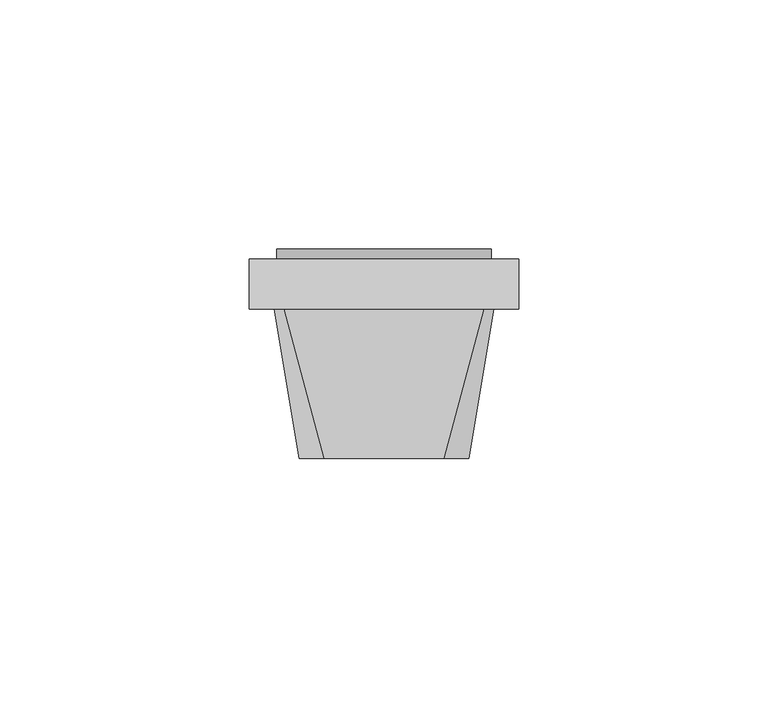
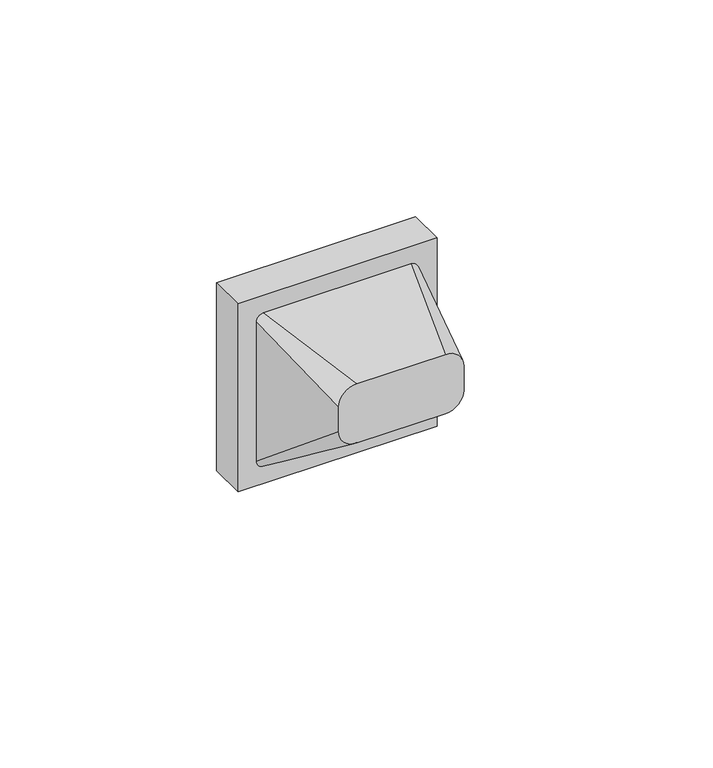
"""IFC4 building model written with IfcOpenShell, lengths in millimetres: proxy geometry, IEK_Brite_Механизм розетки 230В : 230 В PE+шт. USB A+A_РЮш10-1-БрА."""

from ifc_helpers import new_model, si_unit, point, frame, frame_2d, origin, origin_2d, place, context, project, spatial, polyline, circle_curve, ellipse_curve, trimmed, segment, composite_curve, outline, extrude, source, transform, mapped, element, save
from ifc_brep_helpers import plane_surface, cylinder_surface, revolved_surface, spline_surface, advanced_brep


def electrical_fixtures_fe53b4b8(model_context):
    return source(origin(), model_context, "Body", "SolidModel", [
        extrude(outline(polyline([(0.0, -0.9632194), (0.0, 0.0), (6.432744, 0.0), (6.432744, -0.9632194), (0.0, -0.9632194)])), frame((-21.2404576, 8.332744, 14.5465446), z_axis=(0.7071067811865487, 0.0, 0.7071067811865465), x_axis=(0.0, -1.0, 0.0)), (0.0, 0.0, 1.0), 1.1531456),
        extrude(outline(polyline([(0.0, -0.9632194), (0.0, 0.0), (6.432744, 0.0), (6.432744, -0.9632194), (0.0, -0.9632194)])), frame((-19.4528563, 8.332744, 16.3341459), z_axis=(0.7071067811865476, 0.0, 0.7071067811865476), x_axis=(0.0, -1.0, 0.0)), (0.0, 0.0, 1.0), 1.1531456),
        extrude(outline(polyline([(0.0, -0.9632194), (0.0, 0.0), (6.432744, 0.0), (6.432744, -0.9632194), (0.0, -0.9632194)])), frame((-17.7049237, 8.332744, 18.0820785), z_axis=(0.7071067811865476, 0.0, 0.7071067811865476), x_axis=(0.0, -1.0, 0.0)), (0.0, 0.0, 1.0), 1.1531456),
        extrude(outline(polyline([(0.0, -0.9632194), (0.0, 0.0), (6.432744, 0.0), (6.432744, -0.9632194), (0.0, -0.9632194)])), frame((-15.9173224, 8.332744, 19.8696798), z_axis=(0.7071067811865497, 0.0, 0.7071067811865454), x_axis=(0.0, -1.0, 0.0)), (0.0, 0.0, 1.0), 1.1531456),
        extrude(outline(polyline([(0.0, -1.1632949), (0.0, 0.0), (6.7835378, 0.0), (6.7835378, -1.1632949), (0.0, -1.1632949)])), frame((-22.8653766, 1.865818, 14.0628527), z_axis=(0.7071067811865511, 0.0, 0.7071067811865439), x_axis=(0.0, 1.0, 0.0)), (0.0, 0.0, 1.0), 11.3487944),
        extrude(outline(polyline([(0.0, -1.1531456), (0.0, 0.0), (6.432744, 0.0), (6.432744, -1.1531456), (0.0, -1.1531456)])), frame((21.2404576, 8.332744, 14.5465446), z_axis=(0.7071067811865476, 0.0, 0.7071067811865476), x_axis=(0.0, -1.0, 0.0)), (0.0, 0.0, 1.0), 0.9632194),
        extrude(outline(polyline([(0.0, -1.1531455), (0.0, 0.0), (6.432744, 0.0), (6.432744, -1.1531455), (0.0, -1.1531455)])), frame((19.4528563, 8.332744, 16.3341459), z_axis=(0.7071067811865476, 0.0, 0.7071067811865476), x_axis=(0.0, -1.0, 0.0)), (0.0, 0.0, 1.0), 0.9632194),
        extrude(outline(polyline([(0.0, -1.1531456), (0.0, 0.0), (6.432744, 0.0), (6.432744, -1.1531456), (0.0, -1.1531456)])), frame((17.7049237, 8.332744, 18.0820785), z_axis=(0.7071067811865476, 0.0, 0.7071067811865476), x_axis=(0.0, -1.0, 0.0)), (0.0, 0.0, 1.0), 0.9632194),
        extrude(outline(polyline([(0.0, -1.1531455), (0.0, 0.0), (6.432744, 0.0), (6.432744, -1.1531455), (0.0, -1.1531455)])), frame((15.9173224, 8.332744, 19.8696798), z_axis=(0.7071067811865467, 0.0, 0.7071067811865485), x_axis=(0.0, -1.0, 0.0)), (0.0, 0.0, 1.0), 0.9632194),
        extrude(outline(polyline([(0.0, -11.3487944), (0.0, 0.0), (6.7835378, 0.0), (6.7835378, -11.3487944), (0.0, -11.3487944)])), frame((14.0179934, 1.865818, 21.2650885), z_axis=(0.707106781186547, 0.0, 0.7071067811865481), x_axis=(0.0, 1.0, 0.0)), (0.0, 0.0, 1.0), 1.1632949),
        advanced_brep(
        [(-12.0, -30.0, 17.0), (-17.0, -30.0, 12.0), (-17.0, -30.0, 5.0), (-12.0, -30.0, 0.0), (12.0, -30.0, 0.0), (17.0, -30.0, 5.0), (17.0, -30.0, 12.0), (12.0, -30.0, 17.0), (-20.0, 0.0, 22.0), (20.0, 0.0, 22.0), (22.0, 0.0, 20.0), (22.0, 0.0, -20.0), (20.0, 0.0, -22.0), (-20.0, 0.0, -22.0), (-22.0, 0.0, -20.0), (-22.0, 0.0, 20.0), (-11.8753617, 0.0, 0.0), (-6.3904783, 0.0, 0.0), (-3.0105286, 0.0, 0.0), (3.0105286, 0.0, 0.0), (6.3904783, 0.0, 0.0), (11.8753617, 0.0, 0.0), (-1.7917908, 0.0, 19.3280847), (-1.7917908, 0.0, 16.8280847), (0.0, 0.0, 16.8280847), (1.7917908, 0.0, 16.8280847), (1.7917908, 0.0, 19.3280847), (0.0, 0.0, 19.3280847), (-1.7917908, 0.0, -19.3280847), (0.0, 0.0, -19.3280847), (1.7917908, 0.0, -19.3280847), (1.7917908, 0.0, -16.8280847), (0.0, 0.0, -16.8280847), (-1.7917908, 0.0, -16.8280847), (0.0, -3.6435209, -19.3280847), (-1.7917908, -3.6435209, -19.3280847), (-1.7917908, -7.0526118, -16.8280847), (0.0, -7.0526118, -16.8280847), (1.7917908, -7.0526118, -16.8280847), (1.7917908, -3.6435209, -19.3280847), (-11.8753617, -13.4962918, 0.0), (-6.3904783, -13.4962918, 0.0), (-3.0105286, -13.4962918, 0.0), (3.0105286, -13.4962918, 0.0), (6.3904783, -13.4962918, 0.0), (11.8753617, -13.4962918, 0.0), (-1.7917908, -13.4962918, 19.3280847), (0.0, -13.4962918, 19.3280847), (1.7917908, -13.4962918, 19.3280847), (1.7917908, -13.4962918, 16.8280847), (0.0, -13.4962918, 16.8280847), (-1.7917908, -13.4962918, 16.8280847)],
        [
            (0, 1, circle_curve(frame((-12.0, -30.0, 12.0), z_axis=(0.0, -1.0, 0.0), x_axis=(1.0, 0.0, 0.0)), 5.0)),
            (1, 2),
            (2, 3, circle_curve(frame((-12.0, -30.0, 5.0), z_axis=(0.0, -1.0, 0.0), x_axis=(1.0, 0.0, 0.0)), 5.0)),
            (3, 4),
            (4, 5, circle_curve(frame((12.0, -30.0, 5.0), z_axis=(0.0, -1.0, 0.0), x_axis=(1.0, 0.0, 0.0)), 5.0)),
            (5, 6),
            (6, 7, circle_curve(frame((12.0, -30.0, 12.0), z_axis=(0.0, -1.0, 0.0), x_axis=(1.0, 0.0, 0.0)), 5.0)),
            (7, 0),
            (8, 9),
            (9, 10, circle_curve(frame((20.0, 0.0, 20.0), z_axis=(0.0, 1.0, 0.0), x_axis=(1.0, 0.0, 0.0)), 2.0)),
            (10, 11),
            (11, 12, circle_curve(frame((20.0, 0.0, -20.0), z_axis=(0.0, 1.0, 0.0), x_axis=(1.0, 0.0, 0.0)), 2.0)),
            (12, 13),
            (13, 14, circle_curve(frame((-20.0, 0.0, -20.0), z_axis=(0.0, 1.0, 0.0), x_axis=(1.0, 0.0, 0.0)), 2.0)),
            (14, 15),
            (15, 8, circle_curve(frame((-20.0, 0.0, 20.0), z_axis=(0.0, 1.0, 0.0), x_axis=(1.0, 0.0, 0.0)), 2.0)),
            (16, 17, circle_curve(frame((-9.13292, 0.0, 0.0), z_axis=(0.0, -1.0, 0.0), x_axis=(1.0, 0.0, 0.0)), 2.7424417)),
            (17, 16, circle_curve(frame((-9.13292, 0.0, 0.0), z_axis=(0.0, -1.0, 0.0), x_axis=(1.0, 0.0, 0.0)), 2.7424417)),
            (18, 19, circle_curve(frame((0.0, 0.0, 0.0), z_axis=(0.0, -1.0, 0.0), x_axis=(1.0, 0.0, 0.0)), 3.0105286)),
            (19, 18, circle_curve(frame((0.0, 0.0, 0.0), z_axis=(0.0, -1.0, 0.0), x_axis=(1.0, 0.0, 0.0)), 3.0105286)),
            (20, 21, circle_curve(frame((9.13292, 0.0, 0.0), z_axis=(0.0, -1.0, 0.0), x_axis=(1.0, 0.0, 0.0)), 2.7424417)),
            (21, 20, circle_curve(frame((9.13292, 0.0, 0.0), z_axis=(0.0, -1.0, 0.0), x_axis=(1.0, 0.0, 0.0)), 2.7424417)),
            (22, 23),
            (23, 24),
            (24, 25),
            (25, 26),
            (26, 27),
            (27, 22),
            (28, 29),
            (29, 30),
            (30, 31),
            (31, 32),
            (32, 33),
            (33, 28),
            (7, 9),
            (8, 0),
            (6, 10),
            (5, 11),
            (4, 12),
            (3, 13),
            (34, 35),
            (35, 36),
            (36, 37),
            (37, 38),
            (38, 39),
            (39, 34),
            (2, 14),
            (1, 15),
            (40, 41, circle_curve(frame((-9.13292, -13.4962918, 0.0), z_axis=(0.0, 1.0, 0.0), x_axis=(1.0, 0.0, 0.0)), 2.7424417)),
            (41, 40, circle_curve(frame((-9.13292, -13.4962918, 0.0), z_axis=(0.0, 1.0, 0.0), x_axis=(1.0, 0.0, 0.0)), 2.7424417)),
            (42, 43, circle_curve(frame((0.0, -13.4962918, 0.0), z_axis=(0.0, 1.0, 0.0), x_axis=(1.0, 0.0, 0.0)), 3.0105286)),
            (43, 42, circle_curve(frame((0.0, -13.4962918, 0.0), z_axis=(0.0, 1.0, 0.0), x_axis=(1.0, 0.0, 0.0)), 3.0105286)),
            (44, 45, circle_curve(frame((9.13292, -13.4962918, 0.0), z_axis=(0.0, 1.0, 0.0), x_axis=(1.0, 0.0, 0.0)), 2.7424417)),
            (45, 44, circle_curve(frame((9.13292, -13.4962918, 0.0), z_axis=(0.0, 1.0, 0.0), x_axis=(1.0, 0.0, 0.0)), 2.7424417)),
            (46, 47),
            (47, 48),
            (48, 49),
            (49, 50),
            (50, 51),
            (51, 46),
            (41, 17),
            (16, 40),
            (43, 19),
            (18, 42),
            (45, 21),
            (20, 44),
            (51, 23),
            (22, 46),
            (50, 24),
            (49, 25),
            (48, 26),
            (47, 27),
            (28, 35),
            (34, 29),
            (39, 30),
            (38, 31),
            (37, 32),
            (36, 33),
        ],
        [
            plane_surface(frame((0.0, -30.0, 8.5), z_axis=(0.0, -1.0, 0.0), x_axis=(-1.0, 0.0, 0.0))),
            plane_surface(frame((0.0, 0.0, 0.0), z_axis=(0.0, 1.0, 0.0), x_axis=(-1.0, 0.0, 0.0))),
            plane_surface(frame((0.0, 0.0, 22.0), z_axis=(0.0, -0.16439898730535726, 0.9863939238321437), x_axis=(-1.0, 0.0, 0.0))),
            spline_surface(2, 1, [[(22.0, 0.0, 20.0), (17.0, -30.0, 12.0)], [(22.0, 0.0, 22.0), (17.0, -30.0, 17.0)], [(20.0, 0.0, 22.0), (12.0, -30.0, 17.0)]], [3, 3], [2, 2], [0.0, 1.0], [0.0, 1.0], weights=[[1.0, 1.0], [0.7071067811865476, 0.7071067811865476], [1.0, 1.0]]),
            plane_surface(frame((22.0, 0.0, 0.0), z_axis=(0.9863939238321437, -0.1643989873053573, 0.0), x_axis=(0.0, 0.0, 1.0))),
            spline_surface(2, 1, [[(20.0, 0.0, -22.0), (12.0, -30.0, 0.0)], [(22.0, 0.0, -22.0), (17.0, -30.0, 0.0)], [(22.0, 0.0, -20.0), (17.0, -30.0, 5.0)]], [3, 3], [2, 2], [0.0, 1.0], [0.0, 1.0], weights=[[1.0, 1.0], [0.7071067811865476, 0.7071067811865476], [1.0, 1.0]]),
            plane_surface(frame((0.0, 0.0, -22.0), z_axis=(0.0, -0.591363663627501, -0.8064049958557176), x_axis=(1.0, 0.0, 0.0))),
            spline_surface(2, 1, [[(-22.0, 0.0, -20.0), (-17.0, -30.0, 5.0)], [(-22.0, 0.0, -22.0), (-17.0, -30.0, 0.0)], [(-20.0, 0.0, -22.0), (-12.0, -30.0, 0.0)]], [3, 3], [2, 2], [0.0, 1.0], [0.0, 1.0], weights=[[1.0, 1.0], [0.7071067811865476, 0.7071067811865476], [1.0, 1.0]]),
            plane_surface(frame((-22.0, 0.0, 0.0), z_axis=(-0.9863939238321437, -0.1643989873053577, 0.0), x_axis=(0.0, 0.0, -1.0))),
            spline_surface(2, 1, [[(-20.0, 0.0, 22.0), (-12.0, -30.0, 17.0)], [(-22.0, 0.0, 22.0), (-17.0, -30.0, 17.0)], [(-22.0, 0.0, 20.0), (-17.0, -30.0, 12.0)]], [3, 3], [2, 2], [0.0, 1.0], [0.0, 1.0], weights=[[1.0, 1.0], [0.7071067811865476, 0.7071067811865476], [1.0, 1.0]]),
            plane_surface(frame((-6.3904783, -13.4962918, 0.0), z_axis=(0.0, 1.0, 0.0), x_axis=(0.0, 0.0, 1.0))),
            revolved_surface(polyline([(-6.3904783, -13.4962918, 0.0), (-6.3904783, 0.0, 0.0)]), (-9.13292, 0.0, 0.0), (0.0, -1.0, 0.0)),
            revolved_surface(polyline([(3.0105286, -13.4962918, 0.0), (3.0105286, 0.0, 0.0)]), (0.0, -2.0, 0.0), (0.0, -1.0, 0.0)),
            revolved_surface(polyline([(11.875361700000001, -13.4962918, 0.0), (11.875361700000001, 0.0, 0.0)]), (9.13292, -2.0, 0.0), (0.0, -1.0, 0.0)),
            plane_surface(frame((-1.7917908, -13.4962918, 19.3280847), z_axis=(1.0, 0.0, 0.0), x_axis=(0.0, 1.0, 0.0))),
            plane_surface(frame((-1.7917908, -13.4962918, 16.8280847), z_axis=(0.0, 0.0, 1.0), x_axis=(0.0, 1.0, 0.0))),
            plane_surface(frame((0.0, -13.4962918, 16.8280847), z_axis=(0.0, 0.0, 1.0), x_axis=(0.0, 1.0, 0.0))),
            plane_surface(frame((1.7917908, -13.4962918, 16.8280847), z_axis=(-1.0, 0.0, 0.0), x_axis=(0.0, 1.0, 0.0))),
            plane_surface(frame((1.7917908, -13.4962918, 19.3280847), z_axis=(0.0, 0.0, -1.0), x_axis=(0.0, 1.0, 0.0))),
            plane_surface(frame((0.0, -13.4962918, 19.3280847), z_axis=(0.0, 0.0, -1.0), x_axis=(0.0, 1.0, 0.0))),
            plane_surface(frame((-1.7917908, -13.4962918, -19.3280847), z_axis=(0.0, 0.0, 1.0), x_axis=(0.0, 1.0, 0.0))),
            plane_surface(frame((0.0, -13.4962918, -19.3280847), z_axis=(0.0, 0.0, 1.0), x_axis=(0.0, 1.0, 0.0))),
            plane_surface(frame((1.7917908, -13.4962918, -19.3280847), z_axis=(-1.0, 0.0, 0.0), x_axis=(0.0, 1.0, 0.0))),
            plane_surface(frame((1.7917908, -13.4962918, -16.8280847), z_axis=(0.0, 0.0, -1.0), x_axis=(0.0, 1.0, 0.0))),
            plane_surface(frame((0.0, -13.4962918, -16.8280847), z_axis=(0.0, 0.0, -1.0), x_axis=(0.0, 1.0, 0.0))),
            plane_surface(frame((-1.7917908, -13.4962918, -16.8280847), z_axis=(1.0, 0.0, 0.0), x_axis=(0.0, 1.0, 0.0))),
        ],
        [
            (0, [[1, 2, 3, 4, 5, 6, 7, 8]]),
            (1, [[9, 10, 11, 12, 13, 14, 15, 16], [17, 18], [19, 20], [21, 22], [23, 24, 25, 26, 27, 28], [29, 30, 31, 32, 33, 34]]),
            (2, [[-8, 35, -9, 36]]),
            (3, [[-7, 37, -10, -35]]),
            (4, [[-6, 38, -11, -37]]),
            (5, [[-5, 39, -12, -38]]),
            (6, [[-4, 40, -13, -39], [41, 42, 43, 44, 45, 46]]),
            (7, [[-3, 47, -14, -40]]),
            (8, [[-2, 48, -15, -47]]),
            (9, [[-1, -36, -16, -48]]),
            (10, [[49, 50]]),
            (10, [[51, 52]]),
            (10, [[53, 54]]),
            (10, [[55, 56, 57, 58, 59, 60]]),
            (11, [[-50, 61, -17, 62]]),
            (11, [[-49, -62, -18, -61]]),
            (12, [[-52, 63, -19, 64]]),
            (12, [[-51, -64, -20, -63]]),
            (13, [[-54, 65, -21, 66]]),
            (13, [[-53, -66, -22, -65]]),
            (14, [[-60, 67, -23, 68]]),
            (15, [[-59, 69, -24, -67]]),
            (16, [[-58, 70, -25, -69]]),
            (17, [[-57, 71, -26, -70]]),
            (18, [[-56, 72, -27, -71]]),
            (19, [[-55, -68, -28, -72]]),
            (20, [[73, -41, 74, -29]]),
            (21, [[-74, -46, 75, -30]]),
            (22, [[-75, -45, 76, -31]]),
            (23, [[-76, -44, 77, -32]]),
            (24, [[-77, -43, 78, -33]]),
            (25, [[-73, -34, -78, -42]]),
        ],
    ),
        extrude(outline(composite_curve([segment(trimmed(circle_curve(frame_2d((6.4251956, 19.2322549)), 1.2539127), [point((7.6710794, 19.3739261))], [point((5.5330873, 18.3510967))], False, "CARTESIAN"), True, "CONTINUOUS"), segment(polyline([(5.5330873, 18.3510967), (-1.7, 17.5095674), (-1.7, 18.7042816), (7.6710794, 19.3739261)]), True, "CONTINUOUS")], self_intersect=False)), frame((-1.5, 0.0, 0.0), z_axis=(1.0, 0.0, 0.0), x_axis=(0.0, 1.0, 0.0)), (0.0, 0.0, 1.0), 3.0),
        extrude(outline(composite_curve([segment(polyline([(7.6710794, -19.3739261), (-1.7, -18.7042816), (-1.7, -17.5095674), (5.5330873, -18.3510967)]), True, "CONTINUOUS"), segment(trimmed(circle_curve(frame_2d((6.4251956, -19.2322549)), 1.2539127), [point((5.5330873, -18.3510967))], [point((7.6710794, -19.3739261))], False, "CARTESIAN"), True, "CONTINUOUS")], self_intersect=False)), frame((-1.5, 0.0, 0.0), z_axis=(1.0, 0.0, 0.0), x_axis=(0.0, 1.0, 0.0)), (0.0, 0.0, 1.0), 3.0),
        advanced_brep(
        [(0.0, 0.078125, -2.8986917), (0.0, 0.078125, 2.8986917), (0.0, 0.8649081, 0.0), (0.0, -1.7, -2.8986917), (0.0, -1.7, 2.8986917), (0.0, -1.7, 0.0)],
        [
            (0, 1, circle_curve(frame((0.0, 0.078125, 0.0), z_axis=(0.0, 1.0, 0.0), x_axis=(0.0, 0.0, 1.0)), 2.8986917)),
            (1, 2, ellipse_curve(frame((0.0, 0.078125, 0.15625), z_axis=(-1.0, 0.0, 0.0), x_axis=(0.0, 0.0, 1.0)), 2.7424417, 0.7880633)),
            (2, 0, ellipse_curve(frame((0.0, 0.078125, -0.15625), z_axis=(-1.0, 0.0, 0.0), x_axis=(0.0, 0.0, -1.0)), 2.7424417, 0.7880633)),
            (1, 0, circle_curve(frame((0.0, 0.078125, 0.0), z_axis=(0.0, 1.0, 0.0), x_axis=(0.0, 0.0, 1.0)), 2.8986917)),
            (3, 4, circle_curve(frame((0.0, -1.7, 0.0), z_axis=(0.0, 1.0, 0.0), x_axis=(0.0, 0.0, 1.0)), 2.8986917)),
            (4, 1),
            (0, 3),
            (4, 3, circle_curve(frame((0.0, -1.7, 0.0), z_axis=(0.0, 1.0, 0.0), x_axis=(0.0, 0.0, 1.0)), 2.8986917)),
            (5, 4),
            (3, 5),
        ],
        [
            revolved_surface(trimmed(ellipse_curve(frame((0.0, 0.078125, 0.15625), z_axis=(1.0, 0.0, 0.0), x_axis=(0.0, 0.0, 1.0)), 2.7424417, 0.7880633), [point((0.0, 0.8649081, 0.0))], [point((0.0, 0.078125, 2.8986917))], True, "CARTESIAN"), (0.0, -3.0228134, 0.0), (0.0, -1.0, 0.0)),
            cylinder_surface(frame((0.0, -3.0228134, 0.0), z_axis=(0.0, -1.0, 0.0), x_axis=(0.0, 0.0, 1.0)), 2.8986917),
            plane_surface(frame((0.0, -1.7, 0.0), z_axis=(0.0, -1.0, 0.0), x_axis=(0.0, 0.0, 1.0))),
        ],
        [
            (0, [[1, 2, 3]]),
            (0, [[4, -3, -2]]),
            (1, [[5, 6, -1, 7]]),
            (1, [[8, -7, -4, -6]]),
            (2, [[9, -5, 10]]),
            (2, [[-10, -8, -9]]),
        ],
    ),
        extrude(outline(composite_curve([segment(polyline([(3.2980592, -16.488464), (11.3194768, -16.488464)]), True, "CONTINUOUS"), segment(trimmed(circle_curve(origin_2d(), 20.0), [point((11.3194768, -16.488464))], [point((3.2980592, -19.7261959))], False, "CARTESIAN"), True, "CONTINUOUS"), segment(polyline([(3.2980592, -19.7261959), (3.2980592, -16.488464)]), True, "CONTINUOUS")], self_intersect=False)), frame((0.0, 0.0, 0.0), z_axis=(0.0, 1.0, 0.0), x_axis=(0.0, 0.0, 1.0)), (0.0, 0.0, 1.0), 8.0),
        extrude(outline(composite_curve([segment(polyline([(-3.2980592, -16.488464), (-3.2980592, -19.7261959)]), True, "CONTINUOUS"), segment(trimmed(circle_curve(origin_2d(), 20.0), [point((-3.2980592, -19.7261959))], [point((-11.3194768, -16.488464))], False, "CARTESIAN"), True, "CONTINUOUS"), segment(polyline([(-11.3194768, -16.488464), (-3.2980592, -16.488464)]), True, "CONTINUOUS")], self_intersect=False)), frame((0.0, 0.0, 0.0), z_axis=(0.0, 1.0, 0.0), x_axis=(0.0, 0.0, 1.0)), (0.0, 0.0, 1.0), 8.0),
        extrude(outline(composite_curve([segment(polyline([(3.2980592, 16.488464), (3.2980592, 19.7261959)]), True, "CONTINUOUS"), segment(trimmed(circle_curve(origin_2d(), 20.0), [point((3.2980592, 19.7261959))], [point((11.3194768, 16.488464))], False, "CARTESIAN"), True, "CONTINUOUS"), segment(polyline([(11.3194768, 16.488464), (3.2980592, 16.488464)]), True, "CONTINUOUS")], self_intersect=False)), frame((0.0, 0.0, 0.0), z_axis=(0.0, 1.0, 0.0), x_axis=(0.0, 0.0, 1.0)), (0.0, 0.0, 1.0), 8.0),
        extrude(outline(composite_curve([segment(polyline([(-3.2980592, 16.488464), (-11.3194768, 16.488464)]), True, "CONTINUOUS"), segment(trimmed(circle_curve(origin_2d(), 20.0), [point((-11.3194768, 16.488464))], [point((-3.2980592, 19.7261959))], False, "CARTESIAN"), True, "CONTINUOUS"), segment(polyline([(-3.2980592, 19.7261959), (-3.2980592, 16.488464)]), True, "CONTINUOUS")], self_intersect=False)), frame((0.0, 0.0, 0.0), z_axis=(0.0, 1.0, 0.0), x_axis=(0.0, 0.0, 1.0)), (0.0, 0.0, 1.0), 8.0),
        advanced_brep(
        [(-27.0, 10.0, 27.0), (27.0, 10.0, 27.0), (27.0, 10.0, -27.0), (-27.0, 10.0, -27.0), (-16.2734937, 10.0, 25.6016703), (-26.1729886, 10.0, 15.7021753), (-21.930348, 10.0, 11.4595346), (-12.030853, 10.0, 21.3590296), (21.930348, 10.0, 11.4595346), (26.1729886, 10.0, 15.7021753), (16.2734937, 10.0, 25.6016703), (12.030853, 10.0, 21.3590296), (21.5, 10.0, 0.0), (-21.5, 10.0, 0.0), (-27.0, 0.0, 27.0), (-27.0, 0.0, -27.0), (27.0, 0.0, -27.0), (27.0, 0.0, 27.0), (20.0, 0.0, 0.0), (-20.0, 0.0, 0.0), (20.0, 10.0, 0.0), (-20.0, 10.0, 0.0), (-26.1729886, 1.865818, 15.7021753), (-16.2734937, 1.865818, 25.6016703), (-12.030853, 1.865818, 21.3590296), (-21.930348, 1.865818, 11.4595346), (26.1729886, 1.865818, 15.7021753), (21.930348, 1.865818, 11.4595346), (12.030853, 1.865818, 21.3590296), (16.2734937, 1.865818, 25.6016703), (-21.5, 12.0, 0.0), (21.5, 12.0, 0.0), (-20.0, 12.0, 0.0), (20.0, 12.0, 0.0)],
        [
            (0, 1),
            (1, 2),
            (2, 3),
            (3, 0),
            (4, 5),
            (5, 6),
            (6, 7),
            (7, 4),
            (8, 9),
            (9, 10),
            (10, 11),
            (11, 8),
            (12, 13, circle_curve(frame((0.0, 10.0, 0.0), z_axis=(0.0, -1.0, 0.0), x_axis=(-1.0, 0.0, 0.0)), 21.5)),
            (13, 12, circle_curve(frame((0.0, 10.0, 0.0), z_axis=(0.0, -1.0, 0.0), x_axis=(-1.0, 0.0, 0.0)), 21.5)),
            (14, 15),
            (15, 16),
            (16, 17),
            (17, 14),
            (18, 19, circle_curve(frame((0.0, 0.0, 0.0), z_axis=(0.0, 1.0, 0.0), x_axis=(1.0, 0.0, 0.0)), 20.0)),
            (19, 18, circle_curve(frame((0.0, 0.0, 0.0), z_axis=(0.0, 1.0, 0.0), x_axis=(1.0, 0.0, 0.0)), 20.0)),
            (3, 15),
            (14, 0),
            (2, 16),
            (1, 17),
            (18, 20),
            (20, 21, circle_curve(frame((0.0, 10.0, 0.0), z_axis=(0.0, 1.0, 0.0), x_axis=(1.0, 0.0, 0.0)), 20.0)),
            (21, 19),
            (21, 20, circle_curve(frame((0.0, 10.0, 0.0), z_axis=(0.0, 1.0, 0.0), x_axis=(1.0, 0.0, 0.0)), 20.0)),
            (22, 23),
            (23, 24),
            (24, 25),
            (25, 22),
            (22, 5),
            (4, 23),
            (7, 24),
            (6, 25),
            (26, 27),
            (27, 28),
            (28, 29),
            (29, 26),
            (26, 9),
            (8, 27),
            (11, 28),
            (10, 29),
            (30, 31, circle_curve(frame((0.0, 12.0, 0.0), z_axis=(0.0, 1.0, 0.0), x_axis=(-1.0, 0.0, 0.0)), 21.5)),
            (31, 30, circle_curve(frame((0.0, 12.0, 0.0), z_axis=(0.0, 1.0, 0.0), x_axis=(-1.0, 0.0, 0.0)), 21.5)),
            (32, 33, circle_curve(frame((0.0, 12.0, 0.0), z_axis=(0.0, -1.0, 0.0), x_axis=(-1.0, 0.0, 0.0)), 20.0)),
            (33, 32, circle_curve(frame((0.0, 12.0, 0.0), z_axis=(0.0, -1.0, 0.0), x_axis=(-1.0, 0.0, 0.0)), 20.0)),
            (32, 21),
            (20, 33),
            (30, 13),
            (12, 31),
        ],
        [
            plane_surface(frame((-27.0, 10.0, -27.0), z_axis=(0.0, 1.0, 0.0), x_axis=(0.0, 0.0, 1.0))),
            plane_surface(frame((-27.0, 0.0, -27.0), z_axis=(0.0, -1.0, 0.0), x_axis=(0.0, 0.0, -1.0))),
            plane_surface(frame((-27.0, 0.0, 27.0), z_axis=(-1.0, 0.0, 0.0), x_axis=(0.0, 1.0, 0.0))),
            plane_surface(frame((-27.0, 0.0, -27.0), z_axis=(0.0, 0.0, -1.0), x_axis=(0.0, 1.0, 0.0))),
            plane_surface(frame((27.0, 0.0, -27.0), z_axis=(1.0, 0.0, 0.0), x_axis=(0.0, 1.0, 0.0))),
            plane_surface(frame((27.0, 0.0, 27.0), z_axis=(0.0, 0.0, 1.0), x_axis=(0.0, 1.0, 0.0))),
            revolved_surface(polyline([(20.0, 0.0, 0.0), (20.0, 10.0, 0.0)]), (0.0, 10.0, 0.0), (0.0, -1.0, 0.0)),
            plane_surface(frame((-11.4365203, 1.865818, 30.4386436), z_axis=(0.0, 1.0, 0.0), x_axis=(-0.7071067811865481, 0.0, -0.7071067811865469))),
            plane_surface(frame((-26.1729886, 10.0, 15.7021753), z_axis=(0.7071067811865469, 0.0, -0.7071067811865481), x_axis=(0.0, -1.0, 0.0))),
            plane_surface(frame((-16.2734937, 10.0, 25.6016703), z_axis=(-0.7071067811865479, 0.0, -0.7071067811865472), x_axis=(0.0, -1.0, 0.0))),
            plane_surface(frame((-12.030853, 10.0, 21.3590296), z_axis=(-0.7071067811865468, 0.0, 0.7071067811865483), x_axis=(0.0, -1.0, 0.0))),
            plane_surface(frame((-21.930348, 10.0, 11.4595346), z_axis=(0.7071067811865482, 0.0, 0.7071067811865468), x_axis=(0.0, -1.0, 0.0))),
            plane_surface(frame((26.1729886, 1.865818, 15.7021753), z_axis=(0.0, 1.0, 0.0), x_axis=(0.7071067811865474, 0.0, 0.7071067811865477))),
            plane_surface(frame((26.1729886, 10.0, 15.7021753), z_axis=(-0.7071067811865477, 0.0, 0.7071067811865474), x_axis=(0.0, -1.0, 0.0))),
            plane_surface(frame((21.930348, 10.0, 11.4595346), z_axis=(0.7071067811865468, 0.0, 0.7071067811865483), x_axis=(0.0, -1.0, 0.0))),
            plane_surface(frame((12.030853, 10.0, 21.3590296), z_axis=(0.7071067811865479, 0.0, -0.7071067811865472), x_axis=(0.0, -1.0, 0.0))),
            plane_surface(frame((16.2734937, 10.0, 25.6016703), z_axis=(-0.7071067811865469, 0.0, -0.7071067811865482), x_axis=(0.0, -1.0, 0.0))),
            plane_surface(frame((-20.0, 12.0, 0.0), z_axis=(0.0, 1.0, 0.0), x_axis=(0.0, 0.0, -1.0))),
            revolved_surface(polyline([(-20.0, 10.0, 0.0), (-20.0, 12.0, 0.0)]), (0.0, 10.0, 0.0), (0.0, -1.0, 0.0)),
            cylinder_surface(frame((0.0, 10.0, 0.0), z_axis=(0.0, 1.0, 0.0), x_axis=(-1.0, 0.0, 0.0)), 21.5),
        ],
        [
            (0, [[1, 2, 3, 4], [5, 6, 7, 8], [9, 10, 11, 12], [13, 14]]),
            (1, [[15, 16, 17, 18], [19, 20]]),
            (2, [[-4, 21, -15, 22]]),
            (3, [[-3, 23, -16, -21]]),
            (4, [[-2, 24, -17, -23]]),
            (5, [[-1, -22, -18, -24]]),
            (6, [[25, 26, 27, -19]]),
            (6, [[-25, -20, -27, 28]]),
            (7, [[29, 30, 31, 32]]),
            (8, [[-29, 33, -5, 34]]),
            (9, [[-30, -34, -8, 35]]),
            (10, [[-31, -35, -7, 36]]),
            (11, [[-32, -36, -6, -33]]),
            (12, [[37, 38, 39, 40]]),
            (13, [[-37, 41, -9, 42]]),
            (14, [[-38, -42, -12, 43]]),
            (15, [[-39, -43, -11, 44]]),
            (16, [[-40, -44, -10, -41]]),
            (17, [[45, 46], [47, 48]]),
            (18, [[-47, 49, -26, 50]]),
            (18, [[-48, -50, -28, -49]]),
            (19, [[-45, 51, -13, 52]]),
            (19, [[-46, -52, -14, -51]]),
        ],
    ),
    ])


if __name__ == "__main__":
    model = new_model("IFC4")
    model_context = context("Model", 3, world=origin())
    ifc_project = project(units=[si_unit("LENGTHUNIT", "METRE", prefix="MILLI")], contexts=[model_context])
    site = spatial("IfcSite", under=ifc_project)
    building = spatial("IfcBuilding", under=site)
    placement = place(None, origin())
    electrical_fixtures_shape = electrical_fixtures_fe53b4b8(model_context)
    element("IfcBuildingElementProxy", 1, Name="IEK_Brite_Механизм розетки 230В : 230 В PE+шт. USB A+A_РЮш10-1-БрА", ObjectType="IEK_Brite_Механизм розетки 230В : 230 В PE+шт. USB A+A_РЮш10-1-БрА", at=placement, inside=building, context=model_context, shape_type="MappedRepresentation", body=[
        mapped(electrical_fixtures_shape, transform((0.0, 0.0, 0.0), x_axis=(1.0, 0.0, 0.0), y_axis=(0.0, 1.0, 0.0), z_axis=(0.0, 0.0, 1.0))),
    ])
    save(model, "model.ifc")
